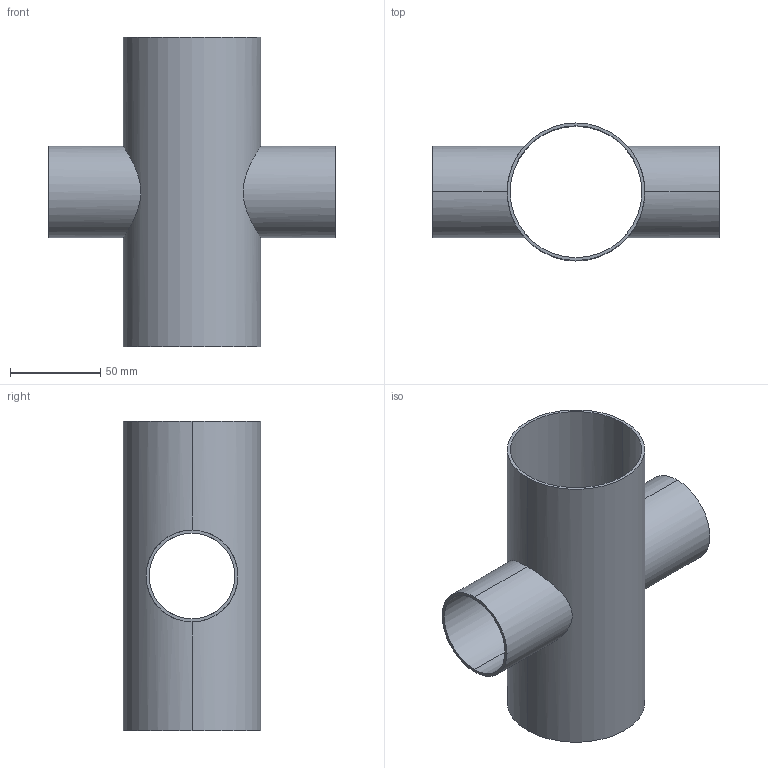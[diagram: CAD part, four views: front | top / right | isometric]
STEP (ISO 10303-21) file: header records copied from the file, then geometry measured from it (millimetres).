
FILE_DESCRIPTION (( 'STEP AP214' ), '1' );
FILE_NAME ('TE9RWWWW6L3.0x2.0-...STEP', '2016-05-22T04:37:02', ( 'eran' ), ( '' ), 'SwSTEP 2.0', 'SolidWorks 2016', '' );
FILE_SCHEMA (( 'AUTOMOTIVE_DESIGN' ));
Length unit declared in the file: millimetre
Products named in the file (1): TE9RWWWW6L3.0x2.0-..
Bounding box: 158.75 x 76.2 x 171.45 mm (x, y, z)
Volume: 83352.3 mm3; surface area: 102236.8 mm2
Topology: 1 solids, 1 shells, 16 faces, 40 edges, 24 vertices
Faces by surface type: cylinder 12, plane 4
Entity records: 986 total; most frequent: CARTESIAN_POINT 561, DIRECTION 82, ORIENTED_EDGE 80, EDGE_CURVE 40, AXIS2_PLACEMENT_3D 33, VERTEX_POINT 24, EDGE_LOOP 20, LINE 16
